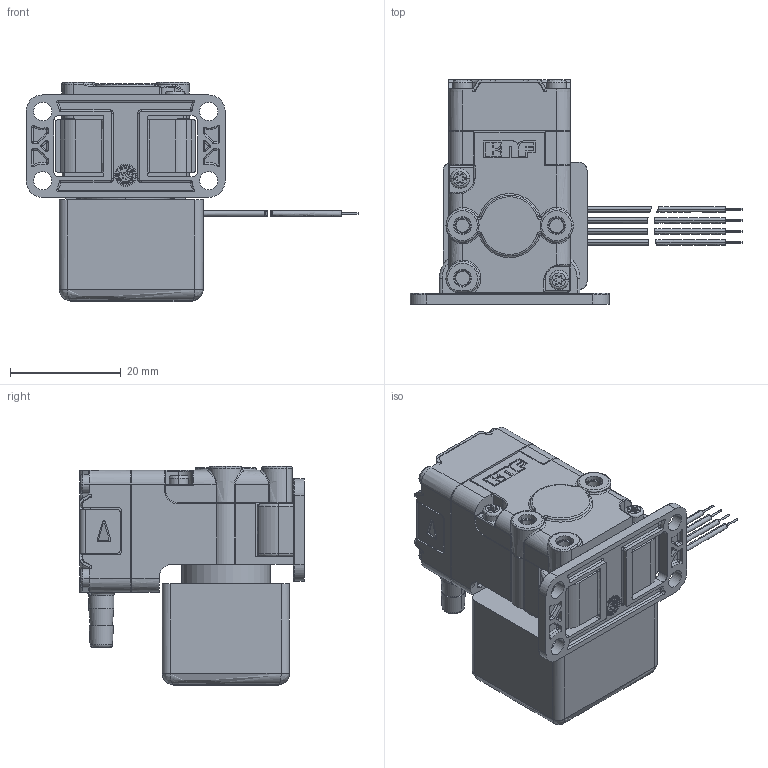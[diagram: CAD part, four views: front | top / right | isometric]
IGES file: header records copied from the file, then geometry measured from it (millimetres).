
Start section:  PTC IGES file: ff12_dcb-4_3-8-02510-00.igs
Global section: file name: ff12_dcb-4_3-8-02510-00.igs; native system: Creo Parametric by Parametric Technology Corporation; preprocessor: 2016100; author: dommenr; organization: Unknown; date: 20170210.104039; units: millimetre
Bounding box: 60 x 40.6 x 39.6 mm (x, y, z)
Volume: 27816.8 mm3; surface area: 11553.5 mm2
Topology: 5 solids, 9 shells, 2394 faces, 6169 edges, 3843 vertices
Faces by surface type: revolution 1197, bspline 1189, extrusion 8
